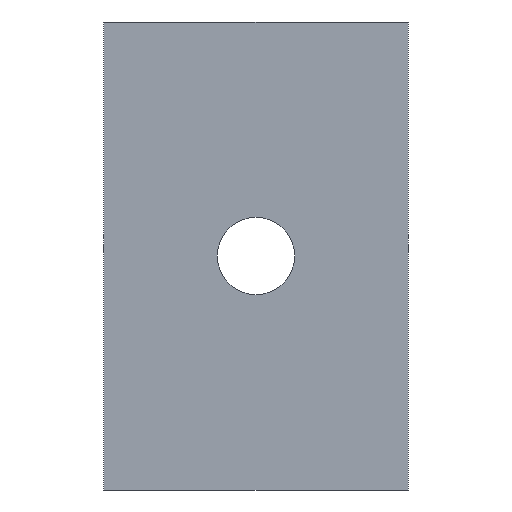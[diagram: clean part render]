
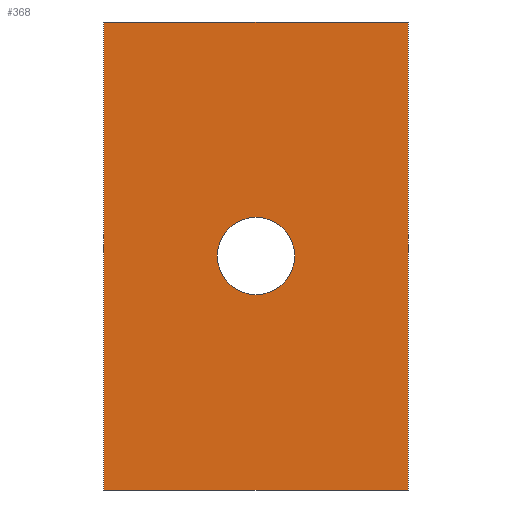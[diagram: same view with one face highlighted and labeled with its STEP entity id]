
A CAD part, front view. The second image highlights one B-rep face of the part: STEP entity #368.
In plain terms, the highlighted planar face has unit normal (0, -1, 0).
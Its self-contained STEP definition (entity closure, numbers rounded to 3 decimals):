
#4 = DIRECTION ( 'NONE',  ( 0., 1., 0. ) ) ;
#10 = CARTESIAN_POINT ( 'NONE',  ( 6.5, 0., 8.35 ) ) ;
#13 = CARTESIAN_POINT ( 'NONE',  ( 0., 0., 0. ) ) ;
#17 = CIRCLE ( 'NONE', #263, 1.65 ) ;
#29 = EDGE_CURVE ( 'NONE', #110, #49, #167, .T. ) ;
#47 = CARTESIAN_POINT ( 'NONE',  ( 13., 0., 0. ) ) ;
#49 = VERTEX_POINT ( 'NONE', #10 ) ;
#52 = EDGE_CURVE ( 'NONE', #60, #231, #173, .T. ) ;
#58 = ORIENTED_EDGE ( 'NONE', *, *, #113, .T. ) ;
#60 = VERTEX_POINT ( 'NONE', #76 ) ;
#74 = VERTEX_POINT ( 'NONE', #340 ) ;
#76 = CARTESIAN_POINT ( 'NONE',  ( 0., 0., 20. ) ) ;
#82 = CARTESIAN_POINT ( 'NONE',  ( 13., 0., 20. ) ) ;
#96 = CARTESIAN_POINT ( 'NONE',  ( 0., 0., 20. ) ) ;
#98 = AXIS2_PLACEMENT_3D ( 'NONE', #99, #306, #124 ) ;
#99 = CARTESIAN_POINT ( 'NONE',  ( 6.5, 0., 10. ) ) ;
#100 = VECTOR ( 'NONE', #227, 1000. ) ;
#104 = CARTESIAN_POINT ( 'NONE',  ( 0., 0., 20. ) ) ;
#107 = FACE_OUTER_BOUND ( 'NONE', #196, .T. ) ;
#109 = LINE ( 'NONE', #255, #125 ) ;
#110 = VERTEX_POINT ( 'NONE', #161 ) ;
#113 = EDGE_CURVE ( 'NONE', #60, #74, #109, .T. ) ;
#124 = DIRECTION ( 'NONE',  ( 0., 0., 1. ) ) ;
#125 = VECTOR ( 'NONE', #278, 1000. ) ;
#128 = EDGE_CURVE ( 'NONE', #74, #321, #294, .T. ) ;
#142 = AXIS2_PLACEMENT_3D ( 'NONE', #96, #4, #208 ) ;
#150 = PLANE ( 'NONE',  #142 ) ;
#154 = ORIENTED_EDGE ( 'NONE', *, *, #52, .F. ) ;
#161 = CARTESIAN_POINT ( 'NONE',  ( 6.5, 0., 11.65 ) ) ;
#167 = CIRCLE ( 'NONE', #98, 1.65 ) ;
#173 = LINE ( 'NONE', #104, #246 ) ;
#181 = FACE_BOUND ( 'NONE', #259, .T. ) ;
#183 = EDGE_CURVE ( 'NONE', #231, #321, #325, .T. ) ;
#196 = EDGE_LOOP ( 'NONE', ( #249, #238, #154, #58 ) ) ;
#202 = EDGE_CURVE ( 'NONE', #49, #110, #17, .T. ) ;
#208 = DIRECTION ( 'NONE',  ( 0., 0., 1. ) ) ;
#226 = CARTESIAN_POINT ( 'NONE',  ( 13., 0., 20. ) ) ;
#227 = DIRECTION ( 'NONE',  ( 0., 0., -1. ) ) ;
#231 = VERTEX_POINT ( 'NONE', #82 ) ;
#232 = CARTESIAN_POINT ( 'NONE',  ( 6.5, 0., 10. ) ) ;
#237 = VECTOR ( 'NONE', #341, 1000. ) ;
#238 = ORIENTED_EDGE ( 'NONE', *, *, #183, .F. ) ;
#246 = VECTOR ( 'NONE', #251, 1000. ) ;
#248 = ORIENTED_EDGE ( 'NONE', *, *, #29, .T. ) ;
#249 = ORIENTED_EDGE ( 'NONE', *, *, #128, .T. ) ;
#251 = DIRECTION ( 'NONE',  ( 1., 0., 0. ) ) ;
#255 = CARTESIAN_POINT ( 'NONE',  ( 0., 0., 20. ) ) ;
#259 = EDGE_LOOP ( 'NONE', ( #248, #336 ) ) ;
#263 = AXIS2_PLACEMENT_3D ( 'NONE', #232, #342, #290 ) ;
#278 = DIRECTION ( 'NONE',  ( 0., 0., -1. ) ) ;
#290 = DIRECTION ( 'NONE',  ( 0., 0., 1. ) ) ;
#294 = LINE ( 'NONE', #13, #237 ) ;
#306 = DIRECTION ( 'NONE',  ( 0., 1., 0. ) ) ;
#321 = VERTEX_POINT ( 'NONE', #47 ) ;
#325 = LINE ( 'NONE', #226, #100 ) ;
#336 = ORIENTED_EDGE ( 'NONE', *, *, #202, .T. ) ;
#340 = CARTESIAN_POINT ( 'NONE',  ( 0., 0., 0. ) ) ;
#341 = DIRECTION ( 'NONE',  ( 1., 0., 0. ) ) ;
#342 = DIRECTION ( 'NONE',  ( 0., 1., 0. ) ) ;
#368 = ADVANCED_FACE ( 'NONE', ( #181, #107 ), #150, .F. ) ;
